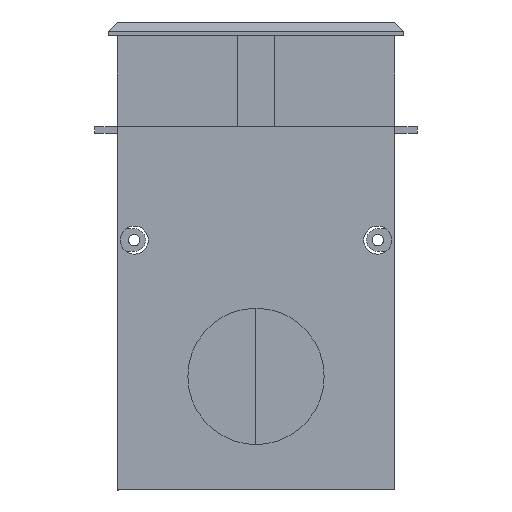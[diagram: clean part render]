
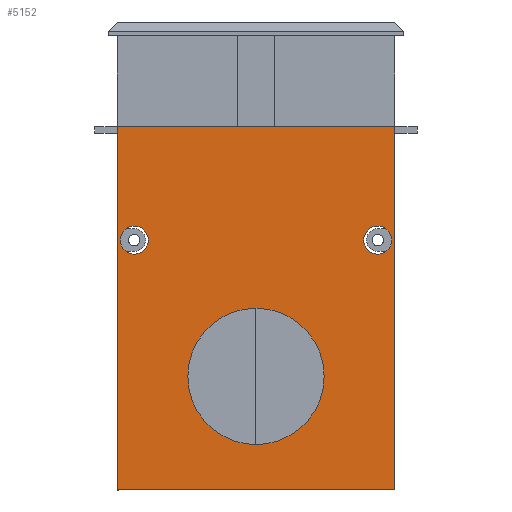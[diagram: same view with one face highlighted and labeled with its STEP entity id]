
A CAD part, left-side view. The second image highlights one B-rep face of the part: STEP entity #5152.
In plain terms, the highlighted planar face has unit normal (-1, 0, 0).
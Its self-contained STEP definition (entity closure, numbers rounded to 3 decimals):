
#99=FACE_BOUND('',#779,.T.);
#100=FACE_BOUND('',#780,.T.);
#101=FACE_BOUND('',#781,.T.);
#204=PLANE('',#5529);
#466=FACE_OUTER_BOUND('',#778,.T.);
#778=EDGE_LOOP('',(#4180,#4181,#4182,#4183));
#779=EDGE_LOOP('',(#4184,#4185));
#780=EDGE_LOOP('',(#4186,#4187));
#781=EDGE_LOOP('',(#4188,#4189));
#1004=CIRCLE('',#5488,3.086);
#1006=CIRCLE('',#5491,3.086);
#1008=CIRCLE('',#5494,3.086);
#1010=CIRCLE('',#5497,3.086);
#1012=CIRCLE('',#5502,15.);
#1014=CIRCLE('',#5505,15.);
#1345=LINE('',#7904,#1943);
#1350=LINE('',#7913,#1948);
#1352=LINE('',#7917,#1950);
#1355=LINE('',#7921,#1953);
#1943=VECTOR('',#6415,304.8);
#1948=VECTOR('',#6422,304.8);
#1950=VECTOR('',#6426,304.8);
#1953=VECTOR('',#6431,304.8);
#2456=VERTEX_POINT('',#7778);
#2457=VERTEX_POINT('',#7779);
#2460=VERTEX_POINT('',#7790);
#2461=VERTEX_POINT('',#7791);
#2470=VERTEX_POINT('',#7817);
#2471=VERTEX_POINT('',#7818);
#2498=VERTEX_POINT('',#7902);
#2499=VERTEX_POINT('',#7903);
#2501=VERTEX_POINT('',#7910);
#2503=VERTEX_POINT('',#7916);
#3032=EDGE_CURVE('',#2456,#2457,#1004,.T.);
#3036=EDGE_CURVE('',#2457,#2456,#1006,.T.);
#3038=EDGE_CURVE('',#2460,#2461,#1008,.T.);
#3042=EDGE_CURVE('',#2461,#2460,#1010,.T.);
#3051=EDGE_CURVE('',#2470,#2471,#1012,.T.);
#3055=EDGE_CURVE('',#2471,#2470,#1014,.T.);
#3093=EDGE_CURVE('',#2498,#2499,#1345,.T.);
#3098=EDGE_CURVE('',#2499,#2501,#1350,.T.);
#3100=EDGE_CURVE('',#2501,#2503,#1352,.T.);
#3103=EDGE_CURVE('',#2503,#2498,#1355,.T.);
#4180=ORIENTED_EDGE('',*,*,#3093,.T.);
#4181=ORIENTED_EDGE('',*,*,#3098,.T.);
#4182=ORIENTED_EDGE('',*,*,#3100,.T.);
#4183=ORIENTED_EDGE('',*,*,#3103,.T.);
#4184=ORIENTED_EDGE('',*,*,#3051,.T.);
#4185=ORIENTED_EDGE('',*,*,#3055,.T.);
#4186=ORIENTED_EDGE('',*,*,#3042,.T.);
#4187=ORIENTED_EDGE('',*,*,#3038,.T.);
#4188=ORIENTED_EDGE('',*,*,#3036,.T.);
#4189=ORIENTED_EDGE('',*,*,#3032,.T.);
#5152=ADVANCED_FACE('',(#466,#99,#100,#101),#204,.T.);
#5488=AXIS2_PLACEMENT_3D('',#7780,#6296,#6297);
#5491=AXIS2_PLACEMENT_3D('',#7787,#6304,#6305);
#5494=AXIS2_PLACEMENT_3D('',#7792,#6310,#6311);
#5497=AXIS2_PLACEMENT_3D('',#7799,#6318,#6319);
#5502=AXIS2_PLACEMENT_3D('',#7819,#6335,#6336);
#5505=AXIS2_PLACEMENT_3D('',#7826,#6343,#6344);
#5529=AXIS2_PLACEMENT_3D('',#7923,#6434,#6435);
#6296=DIRECTION('center_axis',(1.,0.,0.));
#6297=DIRECTION('ref_axis',(0.,1.,0.));
#6304=DIRECTION('center_axis',(1.,0.,0.));
#6305=DIRECTION('ref_axis',(0.,1.,0.));
#6310=DIRECTION('center_axis',(1.,0.,0.));
#6311=DIRECTION('ref_axis',(0.,1.,0.));
#6318=DIRECTION('center_axis',(1.,0.,0.));
#6319=DIRECTION('ref_axis',(0.,1.,0.));
#6335=DIRECTION('center_axis',(1.,0.,0.));
#6336=DIRECTION('ref_axis',(0.,1.,0.));
#6343=DIRECTION('center_axis',(1.,0.,0.));
#6344=DIRECTION('ref_axis',(0.,1.,0.));
#6415=DIRECTION('',(0.,0.,-1.));
#6422=DIRECTION('',(0.,-1.,0.));
#6426=DIRECTION('',(0.,0.,1.));
#6431=DIRECTION('',(0.,1.,0.));
#6434=DIRECTION('center_axis',(-1.,0.,0.));
#6435=DIRECTION('ref_axis',(0.,0.,-1.));
#7778=CARTESIAN_POINT('',(-260.5,-23.714,-45.));
#7779=CARTESIAN_POINT('',(-260.5,-29.886,-45.));
#7780=CARTESIAN_POINT('Origin',(-260.5,-26.8,-45.));
#7787=CARTESIAN_POINT('Origin',(-260.5,-26.8,-45.));
#7790=CARTESIAN_POINT('',(-260.5,29.886,-45.));
#7791=CARTESIAN_POINT('',(-260.5,23.714,-45.));
#7792=CARTESIAN_POINT('Origin',(-260.5,26.8,-45.));
#7799=CARTESIAN_POINT('Origin',(-260.5,26.8,-45.));
#7817=CARTESIAN_POINT('',(-260.5,-15.,-75.007));
#7818=CARTESIAN_POINT('',(-260.5,15.,-75.007));
#7819=CARTESIAN_POINT('Origin',(-260.5,0.,-75.007));
#7826=CARTESIAN_POINT('Origin',(-260.5,0.,-75.007));
#7902=CARTESIAN_POINT('',(-260.5,30.5,-20.));
#7903=CARTESIAN_POINT('',(-260.5,30.5,-100.));
#7904=CARTESIAN_POINT('',(-260.5,30.5,-20.));
#7910=CARTESIAN_POINT('',(-260.5,-30.5,-100.));
#7913=CARTESIAN_POINT('',(-260.5,30.5,-100.));
#7916=CARTESIAN_POINT('',(-260.5,-30.5,-20.));
#7917=CARTESIAN_POINT('',(-260.5,-30.5,-100.));
#7921=CARTESIAN_POINT('',(-260.5,-30.5,-20.));
#7923=CARTESIAN_POINT('Origin',(-260.5,30.5,-99.8));
